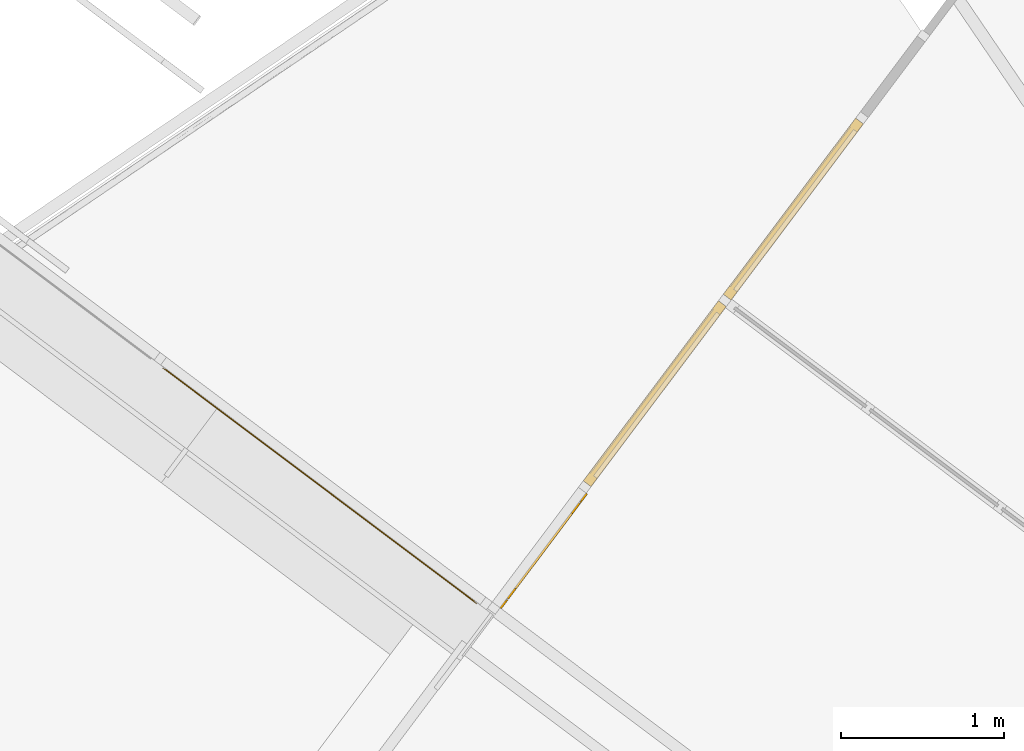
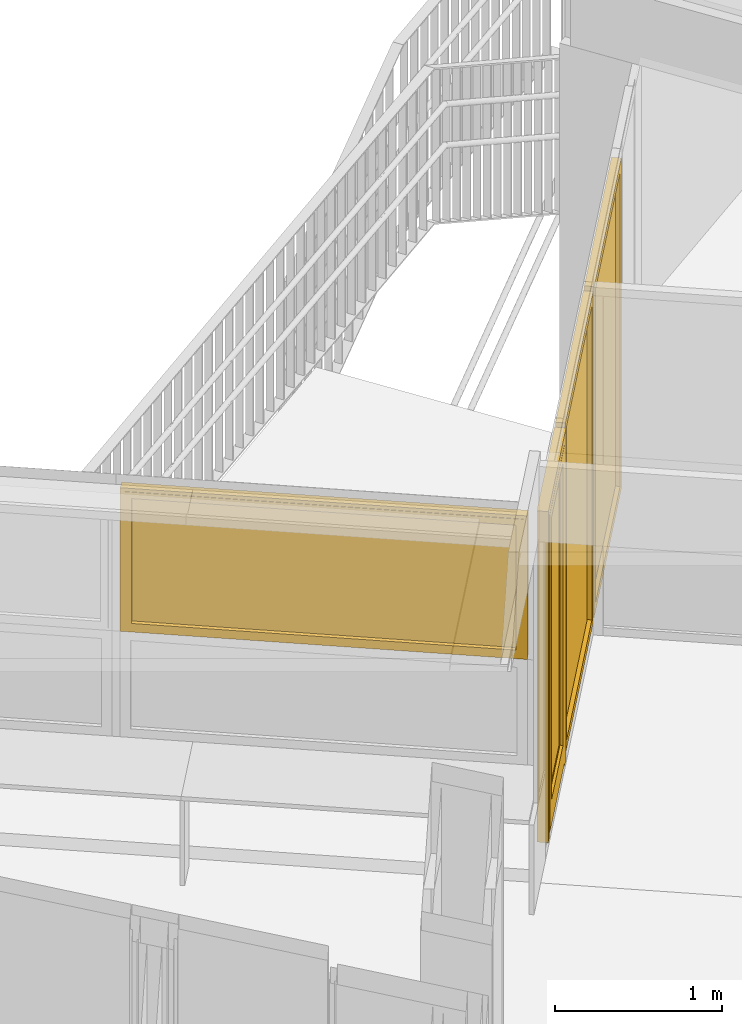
# One storey, part 236 of 243: 3 windows, 1 door, 2 elements without a shape of their own.
"""IFC2X3 building model written with IfcOpenShell, lengths in metres."""

from ifc_helpers import new_model, entity, si_unit, converted_unit, derived_unit, direction, frame, origin, place, context, subcontext, project, spatial, faceted_brep, source, transform, mapped, material, material_list, type_object, type_shapes, element, aggregate, save


model = new_model("IFC2X3")

# Units and contexts
model_context = context("Model", 3, precision=1e-05, world=origin(), true_north=direction((6.123031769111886e-17, 1.0)))
body_context = subcontext(model_context, "Body", "Model", "MODEL_VIEW")
ifc_project = project(units=[si_unit("LENGTHUNIT", "METRE"), si_unit("AREAUNIT", "SQUARE_METRE"), si_unit("VOLUMEUNIT", "CUBIC_METRE"), converted_unit("PLANEANGLEUNIT", "DEGREE", entity("IfcRatioMeasure", 0.017453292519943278), si_unit("PLANEANGLEUNIT", "RADIAN"), dimensions=[0, 0, 0, 0, 0, 0, 0]), si_unit("MASSUNIT", "GRAM", prefix="KILO"), derived_unit("MASSDENSITYUNIT", [(si_unit("MASSUNIT", "GRAM", prefix="KILO"), 1), (si_unit("LENGTHUNIT", "METRE"), -3)]), derived_unit("IONCONCENTRATIONUNIT", [(si_unit("MASSUNIT", "GRAM", prefix="KILO"), 1), (si_unit("LENGTHUNIT", "METRE"), -3)]), derived_unit("MOMENTOFINERTIAUNIT", [(si_unit("LENGTHUNIT", "METRE"), 4)]), si_unit("TIMEUNIT", "SECOND"), si_unit("FREQUENCYUNIT", "HERTZ"), si_unit("THERMODYNAMICTEMPERATUREUNIT", "DEGREE_CELSIUS"), derived_unit("THERMALTRANSMITTANCEUNIT", [(si_unit("MASSUNIT", "GRAM", prefix="KILO"), 1), (si_unit("THERMODYNAMICTEMPERATUREUNIT", "KELVIN"), -1), (si_unit("TIMEUNIT", "SECOND"), -3)]), derived_unit("THERMALCONDUCTANCEUNIT", [(si_unit("MASSUNIT", "GRAM", prefix="KILO"), 1), (si_unit("THERMODYNAMICTEMPERATUREUNIT", "KELVIN"), -1), (si_unit("TIMEUNIT", "SECOND"), -3), (si_unit("LENGTHUNIT", "METRE"), 1)]), derived_unit("VOLUMETRICFLOWRATEUNIT", [(si_unit("LENGTHUNIT", "METRE"), 3), (si_unit("TIMEUNIT", "SECOND"), -1)]), derived_unit("MASSFLOWRATEUNIT", [(si_unit("MASSUNIT", "GRAM", prefix="KILO"), 1), (si_unit("TIMEUNIT", "SECOND"), -1)]), derived_unit("ROTATIONALFREQUENCYUNIT", [(si_unit("TIMEUNIT", "SECOND"), -1)]), si_unit("ELECTRICCURRENTUNIT", "AMPERE"), si_unit("ELECTRICVOLTAGEUNIT", "VOLT"), si_unit("POWERUNIT", "WATT"), si_unit("FORCEUNIT", "NEWTON", prefix="KILO"), si_unit("ILLUMINANCEUNIT", "LUX"), si_unit("LUMINOUSFLUXUNIT", "LUMEN"), si_unit("LUMINOUSINTENSITYUNIT", "CANDELA"), derived_unit("USERDEFINED", [(si_unit("MASSUNIT", "GRAM", prefix="KILO"), -1), (si_unit("LENGTHUNIT", "METRE"), -2), (si_unit("TIMEUNIT", "SECOND"), 3), (si_unit("LUMINOUSFLUXUNIT", "LUMEN"), 1)]), derived_unit("USERDEFINED", [(si_unit("MASSUNIT", "GRAM", prefix="KILO"), 1), (si_unit("TIMEUNIT", "SECOND"), -3), (si_unit("LENGTHUNIT", "METRE"), 3), (si_unit("ELECTRICCURRENTUNIT", "AMPERE"), -2)]), derived_unit("SOUNDPOWERUNIT", [(si_unit("MASSUNIT", "GRAM", prefix="KILO"), 1), (si_unit("TIMEUNIT", "SECOND"), -3), (si_unit("LENGTHUNIT", "METRE"), 2)]), derived_unit("SOUNDPRESSUREUNIT", [(si_unit("MASSUNIT", "GRAM", prefix="KILO"), 1), (si_unit("LENGTHUNIT", "METRE"), -1), (si_unit("TIMEUNIT", "SECOND"), -2)]), derived_unit("LINEARVELOCITYUNIT", [(si_unit("LENGTHUNIT", "METRE"), 1), (si_unit("TIMEUNIT", "SECOND"), -1)]), si_unit("PRESSUREUNIT", "PASCAL"), derived_unit("USERDEFINED", [(si_unit("MASSUNIT", "GRAM", prefix="KILO"), 1), (si_unit("LENGTHUNIT", "METRE"), -2), (si_unit("TIMEUNIT", "SECOND"), -2)]), derived_unit("LINEARFORCEUNIT", [(si_unit("MASSUNIT", "GRAM", prefix="KILO"), 1), (si_unit("TIMEUNIT", "SECOND"), -2)]), derived_unit("PLANARFORCEUNIT", [(si_unit("MASSUNIT", "GRAM", prefix="KILO"), 1), (si_unit("LENGTHUNIT", "METRE"), -1), (si_unit("TIMEUNIT", "SECOND"), -2)]), derived_unit("SPECIFICHEATCAPACITYUNIT", [(si_unit("THERMODYNAMICTEMPERATUREUNIT", "KELVIN"), -1), (si_unit("LENGTHUNIT", "METRE"), 2), (si_unit("TIMEUNIT", "SECOND"), -2)]), derived_unit("HEATINGVALUEUNIT", [(si_unit("LENGTHUNIT", "METRE"), 2), (si_unit("TIMEUNIT", "SECOND"), -2)]), derived_unit("VAPORPERMEABILITYUNIT", [(si_unit("LENGTHUNIT", "METRE"), -1), (si_unit("TIMEUNIT", "SECOND"), 1)]), derived_unit("DYNAMICVISCOSITYUNIT", [(si_unit("MASSUNIT", "GRAM", prefix="KILO"), 1), (si_unit("TIMEUNIT", "SECOND"), -1), (si_unit("LENGTHUNIT", "METRE"), -1)]), derived_unit("THERMALEXPANSIONCOEFFICIENTUNIT", [(si_unit("THERMODYNAMICTEMPERATUREUNIT", "KELVIN"), -1)]), derived_unit("MODULUSOFELASTICITYUNIT", [(si_unit("MASSUNIT", "GRAM", prefix="KILO"), 1), (si_unit("LENGTHUNIT", "METRE"), -1), (si_unit("TIMEUNIT", "SECOND"), -2)]), derived_unit("ISOTHERMALMOISTURECAPACITYUNIT", [(si_unit("LENGTHUNIT", "METRE"), 3), (si_unit("MASSUNIT", "GRAM", prefix="KILO"), -1)]), derived_unit("MOISTUREDIFFUSIVITYUNIT", [(si_unit("TIMEUNIT", "SECOND"), -1), (si_unit("LENGTHUNIT", "METRE"), 2)])], contexts=[model_context])

# Site, building, storey
site_placement = place(None, frame((0.0, 0.0, 235.0), z_axis=(0.0, 0.0, 1.0), x_axis=(-0.7996477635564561, 0.6004693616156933, 0.0)))
site = spatial("IfcSite", under=ifc_project, at=site_placement, Name="Default", CompositionType="ELEMENT")
building_placement = place(site_placement, origin())
building = spatial("IfcBuilding", under=site, at=building_placement, CompositionType="ELEMENT")
storey_placement = place(building_placement, origin())
storey = spatial("IfcBuildingStorey", under=building, at=storey_placement, Name="P0- Escola", CompositionType="ELEMENT", Elevation=0.0)

# Curtain wall, window
curtain_wall_type_1 = type_object("IfcCurtainWallType", Name="Muro cortina:MC- EXT- MC6", PredefinedType="NOTDEFINED")
curtain_wall_1_placement = place(storey_placement, origin())
curtain_wall_1 = element("IfcCurtainWall", 1, at=curtain_wall_1_placement, inside=storey, type_object=curtain_wall_type_1, Name="Muro cortina:MC- EXT- MC6", ObjectType="Muro cortina:MC- EXT- MC6")
ifc_material_1 = material(Name="_Vidre")
ifc_material_2 = material(Name="_Alumini- T1- Perfil")
ifc_material_list = material_list([ifc_material_1, ifc_material_2])
window_style_1 = type_object("IfcWindowStyle", Name="MC- Alu- Conjunt finestra basculant- 68x68 cm:MC- Alu- Conjunt finestra basculant- 68x68 cm", ConstructionType="NOTDEFINED", OperationType="NOTDEFINED", ParameterTakesPrecedence=False, Sizeable=False, material=ifc_material_list)
shared_shape_1 = source(origin(), body_context, "Body", "Brep", [
    faceted_brep([(1.1736163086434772, -0.03559830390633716, 0.051999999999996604), (-1.173616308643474, -0.035598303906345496, 0.051999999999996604), (-1.1736163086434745, -0.011598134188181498, 0.051999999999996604), (1.1736163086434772, -0.01159813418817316, 0.051999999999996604), (1.1736163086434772, -0.035598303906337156, 0.9953027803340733), (1.1736163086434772, -0.01159813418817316, 0.9953027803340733), (-1.1736163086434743, -0.011598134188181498, 0.9953027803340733), (-1.173616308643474, -0.035598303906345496, 0.9953027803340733)], [[[0, 1, 2, 3]], [[4, 0, 3, 5]], [[5, 3, 2, 6]], [[6, 2, 1, 7]], [[7, 1, 0, 4]], [[4, 5, 6, 7]]]),
    faceted_brep([(-1.1579154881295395, -0.009998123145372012, 0.9796019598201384), (-1.1579154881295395, -0.009998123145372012, 0.06789804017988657), (-1.1579154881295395, -0.007998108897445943, 0.06789804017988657), (-1.1579154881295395, -0.007998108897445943, 0.9796019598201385), (-1.1868135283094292, -0.007998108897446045, 1.0085000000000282), (1.1868135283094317, -0.007998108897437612, 1.0085000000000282), (1.1868135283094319, -0.007998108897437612, 0.03899999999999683), (-1.186813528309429, -0.007998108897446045, 0.03899999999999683), (1.1579154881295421, -0.007998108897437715, 0.9796019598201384), (1.1579154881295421, -0.007998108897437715, 0.06789804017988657), (1.1579154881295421, -0.009998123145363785, 0.06789804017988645), (1.1579154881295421, -0.009998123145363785, 0.9796019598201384), (1.1736163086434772, -0.009998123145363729, 0.9953027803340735), (-1.1736163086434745, -0.00999812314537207, 0.9953027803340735), (-1.1736163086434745, -0.00999812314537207, 0.05219721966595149), (1.1736163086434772, -0.009998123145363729, 0.052197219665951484), (-1.1736163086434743, -0.04079986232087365, 0.9953027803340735), (-1.1736163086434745, -0.04079986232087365, 0.052197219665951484), (1.1736163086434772, -0.04079986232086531, 0.052197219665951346), (1.1736163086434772, -0.04079986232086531, 0.9953027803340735), (1.1579154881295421, -0.04079986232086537, 0.9796019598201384), (-1.1579154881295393, -0.04079986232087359, 0.9796019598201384), (-1.1579154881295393, -0.04079986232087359, 0.06789804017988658), (1.1579154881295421, -0.04079986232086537, 0.06789804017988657), (-1.157915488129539, -0.06800005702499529, 0.9796019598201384), (-1.1579154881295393, -0.06800005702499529, 0.06789804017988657), (1.1579154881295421, -0.06800005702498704, 0.06789804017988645), (1.1579154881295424, -0.06800005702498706, 0.9796019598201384), (1.2043174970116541, -0.06800005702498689, 1.0260039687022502), (-1.2043174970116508, -0.06800005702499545, 1.0260039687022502), (-1.2043174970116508, -0.06800005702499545, 0.021496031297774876), (1.2043174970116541, -0.06800005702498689, 0.02149603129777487), (-1.204317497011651, -0.06450003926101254, 1.0260039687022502), (-1.204317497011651, -0.06450003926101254, 0.02149603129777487), (1.2043174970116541, -0.06450003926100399, 0.02149603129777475), (1.204317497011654, -0.06450003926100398, 1.0260039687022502), (1.1868135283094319, -0.06450003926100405, 1.0085000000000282), (-1.1868135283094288, -0.06450003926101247, 1.0085000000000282), (-1.1868135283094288, -0.06450003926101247, 0.03899999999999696), (1.1868135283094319, -0.06450003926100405, 0.038999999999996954)], [[[0, 1, 2, 3]], [[4, 5, 6, 7], [8, 3, 2, 9]], [[1, 10, 9, 2]], [[0, 11, 10, 1], [12, 13, 14, 15]], [[16, 17, 14, 13]], [[17, 18, 15, 14]], [[16, 19, 18, 17], [20, 21, 22, 23]], [[24, 25, 22, 21]], [[25, 26, 23, 22]], [[24, 27, 26, 25], [28, 29, 30, 31]], [[32, 33, 30, 29]], [[33, 34, 31, 30]], [[32, 35, 34, 33], [36, 37, 38, 39]], [[4, 7, 38, 37]], [[7, 6, 39, 38]], [[10, 11, 8, 9]], [[18, 19, 12, 15]], [[26, 27, 20, 23]], [[34, 35, 28, 31]], [[6, 5, 36, 39]], [[11, 0, 3, 8]], [[19, 16, 13, 12]], [[27, 24, 21, 20]], [[35, 32, 29, 28]], [[5, 4, 37, 36]]], outer=[[True], [True, False], [True], [False, True], [True], [True], [True, False], [True], [True], [False, True], [True], [True], [True, False], [True], [True], [True], [True], [True], [True], [True], [True], [True], [True], [True], [True]]),
    faceted_brep([(1.162897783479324, 0.0, 0.9846931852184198), (1.1628977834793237, 0.0, 0.06280681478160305), (1.1628977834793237, -0.0040000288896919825, 0.06280681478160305), (1.162897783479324, -0.0040000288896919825, 0.9846931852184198), (-1.162897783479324, -0.0040000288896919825, 0.9846931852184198), (-1.162897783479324, -0.0040000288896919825, 0.06280681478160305), (1.1983044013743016, -0.0040000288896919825, 1.0200998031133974), (-1.1983044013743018, -0.0040000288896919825, 1.0200998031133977), (-1.1983044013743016, -0.0040000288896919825, 0.02740019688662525), (1.1983044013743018, -0.0040000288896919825, 0.02740019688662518), (-1.162897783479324, 0.0, 0.062806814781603), (-1.1628977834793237, 0.0, 0.9846931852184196), (-1.225704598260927, 0.0, 1.0475000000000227), (1.225704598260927, 0.0, 1.0475000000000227), (1.225704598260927, 0.0, 0.0), (-1.225704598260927, 0.0, 0.0), (1.225704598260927, -0.05999999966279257, 1.0475000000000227), (1.225704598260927, -0.05999999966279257, 0.0), (-1.225704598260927, -0.05999999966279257, 0.0), (-1.225704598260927, -0.05999999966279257, 1.0475000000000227), (-1.1983044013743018, -0.05999999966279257, 1.0200998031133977), (1.1983044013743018, -0.05999999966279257, 1.0200998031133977), (1.1983044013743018, -0.05999999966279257, 0.027400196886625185), (-1.1983044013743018, -0.05999999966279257, 0.02740019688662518)], [[[0, 1, 2, 3]], [[4, 3, 2, 5], [6, 7, 8, 9]], [[1, 10, 5, 2]], [[0, 11, 10, 1], [12, 13, 14, 15]], [[16, 17, 14, 13]], [[17, 18, 15, 14]], [[16, 19, 18, 17], [20, 21, 22, 23]], [[6, 9, 22, 21]], [[9, 8, 23, 22]], [[10, 11, 4, 5]], [[18, 19, 12, 15]], [[8, 7, 20, 23]], [[11, 0, 3, 4]], [[19, 16, 13, 12]], [[7, 6, 21, 20]]], outer=[[True], [False, True], [True], [False, True], [True], [True], [True, False], [True], [True], [True], [True], [True], [True], [True], [True]]),
])
type_shapes(window_style_1, [shared_shape_1])
window_1_placement = place(curtain_wall_1_placement, frame((67.71384820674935, -42.34019175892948, 1.455), z_axis=(0.0, 0.0, 1.0), x_axis=(-1.0, 0.0, 0.0)))
window_1 = element("IfcWindow", 2, at=window_1_placement, type_object=window_style_1, material=ifc_material_list, Name="MC- Alu- Conjunt finestra basculant- 68x68 cm:MC- Alu- Conjunt finestra basculant- 68x68 cm", ObjectType="MC- Alu- Conjunt finestra basculant- 68x68 cm:MC- Alu- Conjunt finestra basculant- 68x68 cm", OverallHeight=1.0475000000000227, OverallWidth=2.451409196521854, context=body_context, shape_type="MappedRepresentation", body=[
    mapped(shared_shape_1, transform((0.0, 0.0, 0.0), scale=1.0)),
])
aggregate(curtain_wall_1, [window_1])

# Curtain wall, door, windows
curtain_wall_type_2 = type_object("IfcCurtainWallType", PredefinedType="NOTDEFINED")
curtain_wall_2_placement = place(storey_placement, origin())
curtain_wall_2 = element("IfcCurtainWall", 3, at=curtain_wall_2_placement, inside=storey, type_object=curtain_wall_type_2)
door_style = type_object("IfcDoorStyle", Name="MC- Alu- Conjunt porta- 70x60 cm- +15cm:MC- Alu- Conjunt porta- 70x60 cm- +15cm", ConstructionType="NOTDEFINED", OperationType="SINGLE_SWING_LEFT", ParameterTakesPrecedence=False, Sizeable=False, material=ifc_material_list)
shared_shape_2 = source(origin(), body_context, "Body", "Brep", [
    faceted_brep([(-0.31509909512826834, -0.00910019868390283, 0.17899999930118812), (0.3150990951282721, -0.00910019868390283, 0.17899999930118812), (0.31509909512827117, -0.041100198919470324, 0.17899999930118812), (-0.31509909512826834, -0.041100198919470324, 0.17899999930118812), (-0.31509909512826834, -0.00910019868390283, 2.292600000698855), (-0.31509909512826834, -0.041100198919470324, 2.292600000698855), (0.31509909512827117, -0.041100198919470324, 2.292600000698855), (0.3150990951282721, -0.00910019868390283, 2.292600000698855)], [[[0, 1, 2, 3]], [[4, 0, 3, 5]], [[5, 3, 2, 6]], [[6, 2, 1, 7]], [[7, 1, 0, 4]], [[4, 5, 6, 7]]]),
    faceted_brep([(0.3666990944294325, -0.06999999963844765, 0.024000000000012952), (-0.36669909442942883, -0.06999999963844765, 0.024000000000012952), (-0.36669909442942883, -0.004300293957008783, 0.024000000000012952), (0.3666990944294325, -0.004300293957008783, 0.024000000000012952), (0.3666990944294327, -0.004300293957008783, 2.3442000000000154), (0.3666990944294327, -0.06999999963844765, 2.3442000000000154), (-0.36669909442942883, -0.004300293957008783, 2.3442000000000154), (-0.3906990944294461, -0.004300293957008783, 0.0), (0.39069909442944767, -0.004300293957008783, 0.0), (0.3906990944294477, -0.004300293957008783, 2.3682000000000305), (-0.39069909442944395, -0.004300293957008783, 2.3682000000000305), (-0.36669909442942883, -0.06999999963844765, 2.3442000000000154), (0.2900990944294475, -0.06999999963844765, 2.2676000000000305), (0.2900990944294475, -0.06999999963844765, 0.20400000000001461), (-0.2900990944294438, -0.06999999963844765, 0.20400000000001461), (-0.2900990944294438, -0.06999999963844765, 2.2676000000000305), (-0.39069909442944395, -2.945720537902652e-07, 2.3682000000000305), (-0.39069909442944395, -2.945720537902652e-07, 0.0), (0.39069909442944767, -2.945720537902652e-07, 0.0), (0.39069909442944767, -2.945720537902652e-07, 2.3682000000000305), (-0.2900990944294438, -2.945720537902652e-07, 2.2676000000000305), (-0.2900990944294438, -2.945720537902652e-07, 0.20400000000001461), (0.2900990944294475, -2.945720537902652e-07, 0.20400000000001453), (0.29009909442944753, -2.945720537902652e-07, 2.2676000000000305), (-0.29009909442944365, -0.005500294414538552, 2.2676000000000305), (-0.2900990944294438, -0.005500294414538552, 0.20400000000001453), (0.2900990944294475, -0.005500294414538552, 0.20400000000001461), (0.2900990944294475, -0.005500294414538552, 2.2676000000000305), (-0.31509909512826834, -0.005500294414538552, 2.292600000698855), (-0.31509909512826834, -0.005500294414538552, 0.17899999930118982), (0.3150990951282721, -0.005500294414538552, 0.17899999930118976), (0.31509909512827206, -0.005500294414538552, 2.292600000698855), (-0.31509909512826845, -0.051000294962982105, 2.292600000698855), (-0.31509909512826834, -0.051000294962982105, 0.17899999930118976), (0.3150990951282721, -0.051000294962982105, 0.17899999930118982), (0.3150990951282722, -0.051000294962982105, 2.292600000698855), (-0.2900990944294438, -0.051000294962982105, 2.2676000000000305), (-0.2900990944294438, -0.051000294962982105, 0.20400000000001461), (0.2900990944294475, -0.051000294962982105, 0.20400000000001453), (0.29009909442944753, -0.051000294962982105, 2.2676000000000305)], [[[0, 1, 2, 3]], [[4, 5, 0, 3]], [[2, 6, 4, 3], [7, 8, 9, 10]], [[2, 1, 11, 6]], [[11, 1, 0, 5], [12, 13, 14, 15]], [[16, 17, 7, 10]], [[8, 7, 17, 18]], [[18, 17, 16, 19], [20, 21, 22, 23]], [[24, 25, 21, 20]], [[21, 25, 26, 22]], [[27, 26, 25, 24], [28, 29, 30, 31]], [[32, 33, 29, 28]], [[33, 34, 30, 29]], [[35, 34, 33, 32], [36, 37, 38, 39]], [[15, 14, 37, 36]], [[37, 14, 13, 38]], [[9, 8, 18, 19]], [[23, 22, 26, 27]], [[31, 30, 34, 35]], [[39, 38, 13, 12]], [[19, 16, 10, 9]], [[27, 24, 20, 23]], [[35, 32, 28, 31]], [[12, 15, 36, 39]], [[4, 6, 11, 5]]], outer=[[True], [True], [False, True], [True], [True, False], [True], [True], [True, False], [True], [True], [False, True], [True], [True], [True, False], [True], [True], [True], [True], [True], [True], [True], [True], [True], [True], [True]]),
    faceted_brep([(-0.43999909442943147, 0.0, 0.0), (-0.39869909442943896, 0.0, 0.0), (-0.39869909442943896, -0.010300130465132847, 0.0), (-0.38819906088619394, -0.010300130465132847, 0.0), (-0.38819906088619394, -0.061199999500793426, 0.0), (-0.3726990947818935, -0.061199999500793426, 0.0), (-0.3726990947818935, -0.06999999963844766, 0.0), (-0.43999909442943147, -0.06999999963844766, 0.0), (-0.43999909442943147, -0.06999999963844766, 2.4175000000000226), (-0.43999909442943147, 0.0, 2.4175000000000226), (-0.3726990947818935, -0.06999999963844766, 2.3502000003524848), (0.3726990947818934, -0.06999999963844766, 2.3502000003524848), (0.37269909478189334, -0.06999999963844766, 0.0), (0.4399990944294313, -0.06999999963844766, 0.0), (0.4399990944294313, -0.06999999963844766, 2.4175000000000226), (-0.3726990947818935, -0.061199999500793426, 2.3502000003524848), (-0.3881990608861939, -0.061199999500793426, 2.365699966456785), (0.3881990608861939, -0.061199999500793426, 2.365699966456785), (0.3881990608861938, -0.061199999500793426, 0.0), (0.37269909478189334, -0.061199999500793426, 0.0), (0.37269909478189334, -0.061199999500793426, 2.3502000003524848), (-0.38819906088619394, -0.010300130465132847, 2.365699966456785), (-0.3986990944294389, -0.010300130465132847, 2.37620000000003), (0.3986990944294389, -0.010300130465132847, 2.37620000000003), (0.3986990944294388, -0.010300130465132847, 0.0), (0.3881990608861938, -0.010300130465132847, 0.0), (0.3881990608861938, -0.010300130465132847, 2.365699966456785), (-0.39869909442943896, 0.0, 2.37620000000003), (0.4399990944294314, 0.0, 2.4175000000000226), (0.4399990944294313, 0.0, 0.0), (0.3986990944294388, 0.0, 0.0), (0.3986990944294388, 0.0, 2.37620000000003)], [[[0, 1, 2, 3, 4, 5, 6, 7]], [[7, 8, 9, 0]], [[6, 10, 11, 12, 13, 14, 8, 7]], [[5, 15, 10, 6]], [[4, 16, 17, 18, 19, 20, 15, 5]], [[3, 21, 16, 4]], [[2, 22, 23, 24, 25, 26, 21, 3]], [[1, 27, 22, 2]], [[0, 9, 28, 29, 30, 31, 27, 1]], [[29, 13, 12, 19, 18, 25, 24, 30]], [[31, 30, 24, 23]], [[26, 25, 18, 17]], [[20, 19, 12, 11]], [[14, 13, 29, 28]], [[8, 14, 28, 9]], [[15, 20, 11, 10]], [[21, 26, 17, 16]], [[27, 31, 23, 22]]]),
])
type_shapes(door_style, [shared_shape_2])
door_placement = place(curtain_wall_2_placement, frame((66.43814360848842, -42.780190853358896, 0.085), z_axis=(0.0, 0.0, 1.0), x_axis=(0.0, -1.0, 0.0)))
door = element("IfcDoor", 4, at=door_placement, type_object=door_style, material=ifc_material_list, Name="MC- Alu- Conjunt porta- 70x60 cm- +15cm:MC- Alu- Conjunt porta- 70x60 cm- +15cm", ObjectType="MC- Alu- Conjunt porta- 70x60 cm- +15cm:MC- Alu- Conjunt porta- 70x60 cm- +15cm", OverallHeight=2.4175000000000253, OverallWidth=0.8799981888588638, context=body_context, shape_type="MappedRepresentation", body=[
    mapped(shared_shape_2, transform((0.0, 0.0, 0.0), scale=1.0)),
])
window_style_2 = type_object("IfcWindowStyle", Name="MC- Alu- Conjunt vidre fix- 62x60 cm:MC- Alu- Conjunt vidre fix- 62x60 cm", ConstructionType="NOTDEFINED", OperationType="NOTDEFINED", ParameterTakesPrecedence=False, Sizeable=False, material=ifc_material_list)
shared_shape_3 = source(origin(), body_context, "Body", "Brep", [
    faceted_brep([(-0.6421932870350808, -0.007600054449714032, 0.048806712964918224), (0.6421932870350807, -0.007600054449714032, 0.048806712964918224), (0.6421932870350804, -0.03160022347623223, 0.048806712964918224), (-0.6421932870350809, -0.03160022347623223, 0.048806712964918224), (-0.6421932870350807, -0.007600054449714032, 2.368500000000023), (0.6421932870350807, -0.007600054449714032, 2.368500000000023), (0.6421932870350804, -0.03160022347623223, 2.368500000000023), (-0.6421932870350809, -0.03160022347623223, 2.368500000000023)], [[[0, 1, 2, 3]], [[4, 5, 1, 0]], [[5, 6, 2, 1]], [[6, 7, 3, 2]], [[7, 4, 0, 3]], [[4, 7, 6, 5]]]),
    faceted_brep([(-0.6909999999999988, -0.05999999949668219, 2.417500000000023), (-0.6909999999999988, 0.0, 2.417500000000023), (-0.690999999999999, 0.0, 0.0), (-0.6909999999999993, -0.05999999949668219, 0.0), (-0.6281931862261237, 0.0, 2.354693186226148), (-0.6281931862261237, 0.0, 0.06280681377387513), (0.6281931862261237, 0.0, 0.06280681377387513), (0.6281931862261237, 0.0, 2.354693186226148), (0.6909999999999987, 0.0, 2.417500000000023), (0.6909999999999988, 0.0, 0.0), (0.6909999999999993, -0.05999999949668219, 0.0), (0.6909999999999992, -0.05999999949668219, 2.417500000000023), (0.6281960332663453, -0.05999999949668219, 2.3546960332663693), (0.6281960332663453, -0.05999999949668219, 0.06280396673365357), (-0.6281960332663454, -0.05999999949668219, 0.06280396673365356), (-0.6281960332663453, -0.05999999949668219, 2.3546960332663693), (-0.6281960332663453, -0.03160022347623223, 2.3546960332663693), (-0.6281960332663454, -0.03160022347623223, 0.06280396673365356), (0.6281960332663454, -0.03160022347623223, 0.06280396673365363), (0.6281960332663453, -0.03160022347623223, 2.3546960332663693), (0.6421932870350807, -0.03160022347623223, 2.368693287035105), (0.6421932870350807, -0.03160022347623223, 0.048806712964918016), (-0.6421932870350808, -0.03160022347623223, 0.04880671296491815), (-0.6421932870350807, -0.03160022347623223, 2.368693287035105), (-0.6421932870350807, -0.007600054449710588, 2.368693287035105), (-0.6421932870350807, -0.007600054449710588, 0.04880671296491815), (0.6421932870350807, -0.007600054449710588, 0.048806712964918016), (0.6421932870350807, -0.007600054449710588, 2.368693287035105), (0.6281931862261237, -0.007600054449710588, 2.354693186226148), (0.6281931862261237, -0.007600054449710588, 0.06280681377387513), (-0.6281931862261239, -0.007600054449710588, 0.06280681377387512), (-0.6281931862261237, -0.007600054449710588, 2.354693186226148)], [[[0, 1, 2, 3]], [[4, 5, 6, 7], [8, 9, 2, 1]], [[3, 2, 9, 10]], [[0, 3, 10, 11], [12, 13, 14, 15]], [[16, 15, 14, 17]], [[17, 14, 13, 18]], [[16, 17, 18, 19], [20, 21, 22, 23]], [[24, 23, 22, 25]], [[25, 22, 21, 26]], [[24, 25, 26, 27], [28, 29, 30, 31]], [[4, 31, 30, 5]], [[5, 30, 29, 6]], [[10, 9, 8, 11]], [[18, 13, 12, 19]], [[26, 21, 20, 27]], [[6, 29, 28, 7]], [[11, 8, 1, 0]], [[19, 12, 15, 16]], [[27, 20, 23, 24]], [[7, 28, 31, 4]]], outer=[[True], [False, True], [True], [True, False], [True], [True], [False, True], [True], [True], [True, False], [True], [True], [True], [True], [True], [True], [True], [True], [True], [True]]),
])
type_shapes(window_style_2, [shared_shape_3])
window_2_placement = place(curtain_wall_2_placement, frame((66.43814360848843, -43.961189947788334, 0.085), z_axis=(0.0, 0.0, 1.0), x_axis=(0.0, -1.0, 0.0)))
window_2 = element("IfcWindow", 5, at=window_2_placement, type_object=window_style_2, material=ifc_material_list, Name="MC- Alu- Conjunt vidre fix- 62x60 cm:MC- Alu- Conjunt vidre fix- 62x60 cm", ObjectType="MC- Alu- Conjunt vidre fix- 62x60 cm:MC- Alu- Conjunt vidre fix- 62x60 cm", OverallHeight=2.4175000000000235, OverallWidth=1.3819999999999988, context=body_context, shape_type="MappedRepresentation", body=[
    mapped(shared_shape_3, transform((0.0, 0.0, 0.0), scale=1.0)),
])
window_style_3 = type_object("IfcWindowStyle", Name="MC- Alu- Conjunt vidre fix- 62x60 cm:MC- Alu- Conjunt vidre fix- 62x60 cm", ConstructionType="NOTDEFINED", OperationType="NOTDEFINED", ParameterTakesPrecedence=False, Sizeable=False, material=ifc_material_list)
shared_shape_4 = source(origin(), body_context, "Body", "Brep", [
    faceted_brep([(-0.6271932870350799, -0.007600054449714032, 0.048806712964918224), (0.6271932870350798, -0.007600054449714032, 0.048806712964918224), (0.6271932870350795, -0.03160022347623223, 0.048806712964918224), (-0.62719328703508, -0.03160022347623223, 0.048806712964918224), (-0.6271932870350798, -0.007600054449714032, 2.368500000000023), (0.6271932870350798, -0.007600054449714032, 2.368500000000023), (0.6271932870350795, -0.03160022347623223, 2.368500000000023), (-0.62719328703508, -0.03160022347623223, 2.368500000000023)], [[[0, 1, 2, 3]], [[4, 5, 1, 0]], [[5, 6, 2, 1]], [[6, 7, 3, 2]], [[7, 4, 0, 3]], [[4, 7, 6, 5]]]),
    faceted_brep([(-0.6759999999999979, -0.05999999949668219, 2.417500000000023), (-0.6759999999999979, 0.0, 2.417500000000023), (-0.675999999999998, 0.0, 0.0), (-0.6759999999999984, -0.05999999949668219, 0.0), (-0.6131931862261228, 0.0, 2.354693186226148), (-0.6131931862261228, 0.0, 0.06280681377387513), (0.6131931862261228, 0.0, 0.06280681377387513), (0.6131931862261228, 0.0, 2.354693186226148), (0.6759999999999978, 0.0, 2.417500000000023), (0.6759999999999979, 0.0, 0.0), (0.675999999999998, -0.05999999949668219, 0.0), (0.6759999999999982, -0.05999999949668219, 2.417500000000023), (0.6131960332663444, -0.05999999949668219, 2.3546960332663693), (0.6131960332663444, -0.05999999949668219, 0.06280396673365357), (-0.6131960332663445, -0.05999999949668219, 0.06280396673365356), (-0.6131960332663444, -0.05999999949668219, 2.3546960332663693), (-0.6131960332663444, -0.03160022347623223, 2.3546960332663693), (-0.6131960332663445, -0.03160022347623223, 0.06280396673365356), (0.613196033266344, -0.03160022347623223, 0.06280396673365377), (0.6131960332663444, -0.03160022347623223, 2.3546960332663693), (0.6271932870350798, -0.03160022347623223, 2.368693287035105), (0.6271932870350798, -0.03160022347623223, 0.048806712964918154), (-0.6271932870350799, -0.03160022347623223, 0.04880671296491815), (-0.6271932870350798, -0.03160022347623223, 2.368693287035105), (-0.6271932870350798, -0.007600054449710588, 2.368693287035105), (-0.6271932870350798, -0.007600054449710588, 0.04880671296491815), (0.6271932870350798, -0.007600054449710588, 0.048806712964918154), (0.6271932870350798, -0.007600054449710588, 2.368693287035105), (0.6131931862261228, -0.007600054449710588, 2.354693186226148), (0.6131931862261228, -0.007600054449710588, 0.06280681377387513), (-0.613193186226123, -0.007600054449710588, 0.06280681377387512), (-0.6131931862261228, -0.007600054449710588, 2.354693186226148)], [[[0, 1, 2, 3]], [[4, 5, 6, 7], [8, 9, 2, 1]], [[3, 2, 9, 10]], [[0, 3, 10, 11], [12, 13, 14, 15]], [[16, 15, 14, 17]], [[17, 14, 13, 18]], [[16, 17, 18, 19], [20, 21, 22, 23]], [[24, 23, 22, 25]], [[25, 22, 21, 26]], [[24, 25, 26, 27], [28, 29, 30, 31]], [[4, 31, 30, 5]], [[5, 30, 29, 6]], [[10, 9, 8, 11]], [[18, 13, 12, 19]], [[26, 21, 20, 27]], [[6, 29, 28, 7]], [[11, 8, 1, 0]], [[19, 12, 15, 16]], [[27, 20, 23, 24]], [[7, 28, 31, 4]]], outer=[[True], [False, True], [True], [True, False], [True], [True], [False, True], [True], [True], [True, False], [True], [True], [True], [True], [True], [True], [True], [True], [True], [True]]),
])
type_shapes(window_style_3, [shared_shape_4])
window_3_placement = place(curtain_wall_2_placement, frame((66.43814360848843, -45.378189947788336, 0.085), z_axis=(0.0, 0.0, 1.0), x_axis=(0.0, -1.0, 0.0)))
window_3 = element("IfcWindow", 6, at=window_3_placement, type_object=window_style_3, material=ifc_material_list, Name="MC- Alu- Conjunt vidre fix- 62x60 cm:MC- Alu- Conjunt vidre fix- 62x60 cm", ObjectType="MC- Alu- Conjunt vidre fix- 62x60 cm:MC- Alu- Conjunt vidre fix- 62x60 cm", OverallHeight=2.4175000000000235, OverallWidth=1.3519999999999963, context=body_context, shape_type="MappedRepresentation", body=[
    mapped(shared_shape_4, transform((0.0, 0.0, 0.0), scale=1.0)),
])
aggregate(curtain_wall_2, [door, window_2, window_3])

save(model, "model.ifc")
